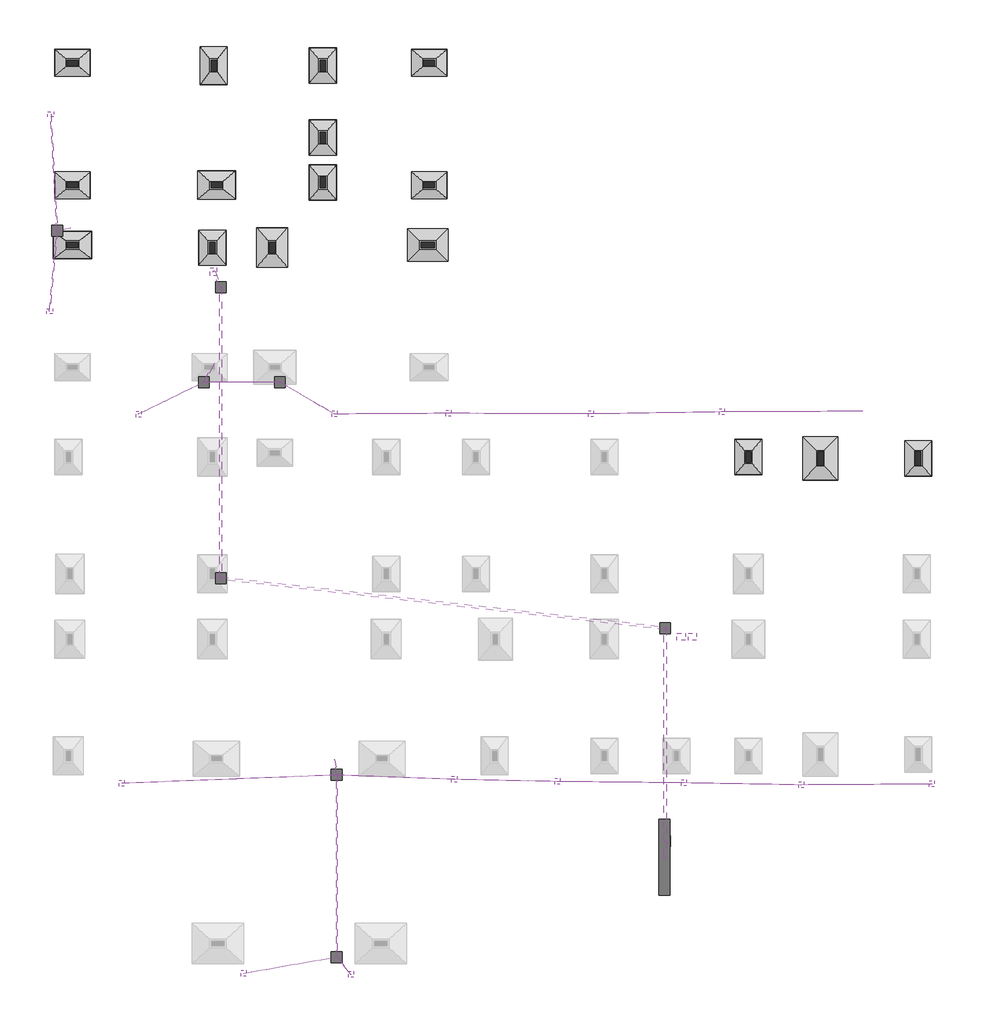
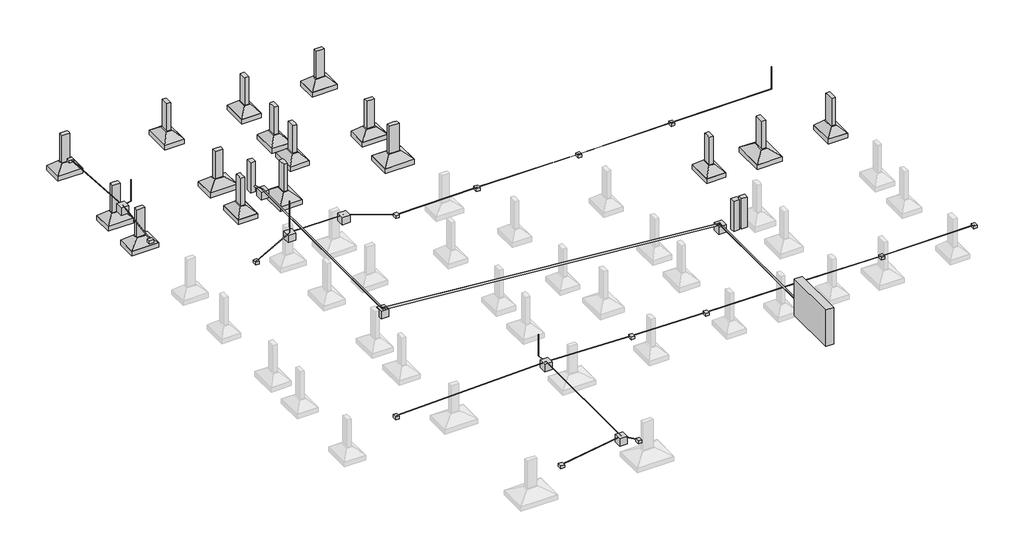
# One storey, part 2 of 2: 26 cable carrier segments, 16 columns, 16 fasteners, 15 light fixtures, 13 proxies.
"""IFC4 building model written with IfcOpenShell, lengths in millimetres."""

from ifc_helpers import new_model, si_unit, origin, place, context, project, spatial, faceted_brep, transform, mapped, element, save
from components import cx1_cx14_a8aa527d, cx2_cx15_7de8fd89, cx3_cx16_01211123, cx4_cx17_f6a05cdf, cx5_cx18_85062926, cx6_cx19_24c6d47e, cx7_cx20_4f0da077, cx8_cx21_344c0f7f, cx9_cx22_9410ceb6, qd4_qd1_2ae0cfc6, qd5_qd2_821c3556, qd6_qd3_51647582, qm2_qm1_dc551427, el168_el337_d79b4257, el169_el338_a9e14a57, el170_el339_c05dac83, el182_el340_44536469, el193_el356_b3d39168, el194_el357_835912d5, el195_el358_41d8a6ff, el196_el359_8e960314, el203_el366_464613bc, el204_el367_4f62fd23, el205_el368_c1dd48bb, el213_el376_55cabb44, el214_el377_bcd5c488, el215_el378_3e00d2e9, el216_el379_91f23930, el224_el380_baf899b6, el225_el382_626b17a3, el226_el383_29e7ba33, el227_el384_02478b61, el228_el385_ea66cd84, el229_el386_fc9da1af, el230_el387_b7c09549, el231_el388_bb1bbab1, el236_el391_a32c4c02, el238_el392_619ccad4, el239_el393_78304476, s1_4bae340d, s10_b3591f86, s12_20553a01, s13_e8522c43, s25_540ac755, s26_9032f409, s7_8c5de983, light_fixture_efbc4ff1, light_fixture_6b981a47, light_fixture_98e1bdc1, light_fixture_e218de78, light_fixture_36c6db67, light_fixture_d0c40b61, light_fixture_7529da5c, light_fixture_7ef588a0, light_fixture_9450ebba, light_fixture_d1f52d2e, light_fixture_ca70e894, light_fixture_18111d35, light_fixture_9afcb20e, light_fixture_d6bf5405, light_fixture_48a183f7

model = new_model("IFC4")

# Units and contexts
model_context = context("Model", 3, world=origin())
ifc_project = project(units=[si_unit("LENGTHUNIT", "METRE", prefix="MILLI")], contexts=[model_context])

# Site, building, storey
site = spatial("IfcSite", under=ifc_project)
building = spatial("IfcBuilding", under=site)
storey = spatial("IfcBuildingStorey", under=building, Name="FUNDAÇÃO", Elevation=0.0)

# Proxies
placement = place(None, origin())
cx1_cx14_shape = cx1_cx14_a8aa527d(model_context)
element("IfcBuildingElementProxy", 1, Name="CX1 : CX14", ObjectType="CX1 : CX14", at=placement, inside=storey, context=model_context, shape_type="MappedRepresentation", body=[
    mapped(cx1_cx14_shape, transform((0.0, 0.0, 0.0), x_axis=(1.0, 0.0, 0.0), y_axis=(0.0, 1.0, 0.0), z_axis=(0.0, 0.0, 1.0))),
])
cx2_cx15_shape = cx2_cx15_7de8fd89(model_context)
element("IfcBuildingElementProxy", 2, Name="CX2 : CX15", ObjectType="CX2 : CX15", at=placement, inside=storey, context=model_context, shape_type="MappedRepresentation", body=[
    mapped(cx2_cx15_shape, transform((0.0, 0.0, 0.0), x_axis=(1.0, 0.0, 0.0), y_axis=(0.0, 1.0, 0.0), z_axis=(0.0, 0.0, 1.0))),
])
cx3_cx16_shape = cx3_cx16_01211123(model_context)
element("IfcBuildingElementProxy", 3, Name="CX3 : CX16", ObjectType="CX3 : CX16", at=placement, inside=storey, context=model_context, shape_type="MappedRepresentation", body=[
    mapped(cx3_cx16_shape, transform((0.0, 0.0, 0.0), x_axis=(1.0, 0.0, 0.0), y_axis=(0.0, 1.0, 0.0), z_axis=(0.0, 0.0, 1.0))),
])
cx4_cx17_shape = cx4_cx17_f6a05cdf(model_context)
element("IfcBuildingElementProxy", 4, Name="CX4 : CX17", ObjectType="CX4 : CX17", at=placement, inside=storey, context=model_context, shape_type="MappedRepresentation", body=[
    mapped(cx4_cx17_shape, transform((0.0, 0.0, 0.0), x_axis=(1.0, 0.0, 0.0), y_axis=(0.0, 1.0, 0.0), z_axis=(0.0, 0.0, 1.0))),
])
cx5_cx18_shape = cx5_cx18_85062926(model_context)
element("IfcBuildingElementProxy", 5, Name="CX5 : CX18", ObjectType="CX5 : CX18", at=placement, inside=storey, context=model_context, shape_type="MappedRepresentation", body=[
    mapped(cx5_cx18_shape, transform((0.0, 0.0, 0.0), x_axis=(1.0, 0.0, 0.0), y_axis=(0.0, 1.0, 0.0), z_axis=(0.0, 0.0, 1.0))),
])
cx6_cx19_shape = cx6_cx19_24c6d47e(model_context)
element("IfcBuildingElementProxy", 6, Name="CX6 : CX19", ObjectType="CX6 : CX19", at=placement, inside=storey, context=model_context, shape_type="MappedRepresentation", body=[
    mapped(cx6_cx19_shape, transform((0.0, 0.0, 0.0), x_axis=(1.0, 0.0, 0.0), y_axis=(0.0, 1.0, 0.0), z_axis=(0.0, 0.0, 1.0))),
])
cx7_cx20_shape = cx7_cx20_4f0da077(model_context)
element("IfcBuildingElementProxy", 7, Name="CX7 : CX20", ObjectType="CX7 : CX20", at=placement, inside=storey, context=model_context, shape_type="MappedRepresentation", body=[
    mapped(cx7_cx20_shape, transform((0.0, 0.0, 0.0), x_axis=(1.0, 0.0, 0.0), y_axis=(0.0, 1.0, 0.0), z_axis=(0.0, 0.0, 1.0))),
])
cx8_cx21_shape = cx8_cx21_344c0f7f(model_context)
element("IfcBuildingElementProxy", 8, Name="CX8 : CX21", ObjectType="CX8 : CX21", at=placement, inside=storey, context=model_context, shape_type="MappedRepresentation", body=[
    mapped(cx8_cx21_shape, transform((0.0, 0.0, 0.0), x_axis=(1.0, 0.0, 0.0), y_axis=(0.0, 1.0, 0.0), z_axis=(0.0, 0.0, 1.0))),
])
cx9_cx22_shape = cx9_cx22_9410ceb6(model_context)
element("IfcBuildingElementProxy", 9, Name="CX9 : CX22", ObjectType="CX9 : CX22", at=placement, inside=storey, context=model_context, shape_type="MappedRepresentation", body=[
    mapped(cx9_cx22_shape, transform((0.0, 0.0, 0.0), x_axis=(1.0, 0.0, 0.0), y_axis=(0.0, 1.0, 0.0), z_axis=(0.0, 0.0, 1.0))),
])
qd4_qd1_shape = qd4_qd1_2ae0cfc6(model_context)
element("IfcBuildingElementProxy", 10, Name="QD4 : QD1", ObjectType="QD4 : QD1", at=placement, inside=storey, context=model_context, shape_type="MappedRepresentation", body=[
    mapped(qd4_qd1_shape, transform((0.0, 0.0, 0.0), x_axis=(1.0, 0.0, 0.0), y_axis=(0.0, 1.0, 0.0), z_axis=(0.0, 0.0, 1.0))),
])
qd5_qd2_shape = qd5_qd2_821c3556(model_context)
element("IfcBuildingElementProxy", 11, Name="QD5 : QD2", ObjectType="QD5 : QD2", at=placement, inside=storey, context=model_context, shape_type="MappedRepresentation", body=[
    mapped(qd5_qd2_shape, transform((0.0, 0.0, 0.0), x_axis=(1.0, 0.0, 0.0), y_axis=(0.0, 1.0, 0.0), z_axis=(0.0, 0.0, 1.0))),
])
qd6_qd3_shape = qd6_qd3_51647582(model_context)
element("IfcBuildingElementProxy", 12, Name="QD6 : QD3", ObjectType="QD6 : QD3", at=placement, inside=storey, context=model_context, shape_type="MappedRepresentation", body=[
    mapped(qd6_qd3_shape, transform((0.0, 0.0, 0.0), x_axis=(1.0, 0.0, 0.0), y_axis=(0.0, 1.0, 0.0), z_axis=(0.0, 0.0, 1.0))),
])
qm2_qm1_shape = qm2_qm1_dc551427(model_context)
element("IfcBuildingElementProxy", 13, Name="QM2 : QM1", ObjectType="QM2 : QM1", at=placement, inside=storey, context=model_context, shape_type="MappedRepresentation", body=[
    mapped(qm2_qm1_shape, transform((0.0, 0.0, 0.0), x_axis=(1.0, 0.0, 0.0), y_axis=(0.0, 1.0, 0.0), z_axis=(0.0, 0.0, 1.0))),
])

# Cable carrier segments
el168_el337_shape = el168_el337_d79b4257(model_context)
element("IfcCableCarrierSegment", 14, ObjectType="El168 : El337", at=placement, inside=storey, context=model_context, shape_type="MappedRepresentation", body=[
    mapped(el168_el337_shape, transform((0.0, 0.0, 0.0), x_axis=(1.0, 0.0, 0.0), y_axis=(0.0, 1.0, 0.0), z_axis=(0.0, 0.0, 1.0))),
])
el169_el338_shape = el169_el338_a9e14a57(model_context)
element("IfcCableCarrierSegment", 15, ObjectType="El169 : El338", at=placement, inside=storey, context=model_context, shape_type="MappedRepresentation", body=[
    mapped(el169_el338_shape, transform((0.0, 0.0, 0.0), x_axis=(1.0, 0.0, 0.0), y_axis=(0.0, 1.0, 0.0), z_axis=(0.0, 0.0, 1.0))),
])
el170_el339_shape = el170_el339_c05dac83(model_context)
element("IfcCableCarrierSegment", 16, ObjectType="El170 : El339", at=placement, inside=storey, context=model_context, shape_type="MappedRepresentation", body=[
    mapped(el170_el339_shape, transform((0.0, 0.0, 0.0), x_axis=(1.0, 0.0, 0.0), y_axis=(0.0, 1.0, 0.0), z_axis=(0.0, 0.0, 1.0))),
])
el182_el340_shape = el182_el340_44536469(model_context)
element("IfcCableCarrierSegment", 17, ObjectType="El182 : El340", at=placement, inside=storey, context=model_context, shape_type="MappedRepresentation", body=[
    mapped(el182_el340_shape, transform((0.0, 0.0, 0.0), x_axis=(1.0, 0.0, 0.0), y_axis=(0.0, 1.0, 0.0), z_axis=(0.0, 0.0, 1.0))),
])
el193_el356_shape = el193_el356_b3d39168(model_context)
element("IfcCableCarrierSegment", 18, ObjectType="El193 : El356", at=placement, inside=storey, context=model_context, shape_type="MappedRepresentation", body=[
    mapped(el193_el356_shape, transform((0.0, 0.0, 0.0), x_axis=(1.0, 0.0, 0.0), y_axis=(0.0, 1.0, 0.0), z_axis=(0.0, 0.0, 1.0))),
])
el194_el357_shape = el194_el357_835912d5(model_context)
element("IfcCableCarrierSegment", 19, ObjectType="El194 : El357", at=placement, inside=storey, context=model_context, shape_type="MappedRepresentation", body=[
    mapped(el194_el357_shape, transform((0.0, 0.0, 0.0), x_axis=(1.0, 0.0, 0.0), y_axis=(0.0, 1.0, 0.0), z_axis=(0.0, 0.0, 1.0))),
])
el195_el358_shape = el195_el358_41d8a6ff(model_context)
element("IfcCableCarrierSegment", 20, ObjectType="El195 : El358", at=placement, inside=storey, context=model_context, shape_type="MappedRepresentation", body=[
    mapped(el195_el358_shape, transform((0.0, 0.0, 0.0), x_axis=(1.0, 0.0, 0.0), y_axis=(0.0, 1.0, 0.0), z_axis=(0.0, 0.0, 1.0))),
])
el196_el359_shape = el196_el359_8e960314(model_context)
element("IfcCableCarrierSegment", 21, ObjectType="El196 : El359", at=placement, inside=storey, context=model_context, shape_type="MappedRepresentation", body=[
    mapped(el196_el359_shape, transform((0.0, 0.0, 0.0), x_axis=(1.0, 0.0, 0.0), y_axis=(0.0, 1.0, 0.0), z_axis=(0.0, 0.0, 1.0))),
])
el203_el366_shape = el203_el366_464613bc(model_context)
element("IfcCableCarrierSegment", 22, ObjectType="El203 : El366", at=placement, inside=storey, context=model_context, shape_type="MappedRepresentation", body=[
    mapped(el203_el366_shape, transform((0.0, 0.0, 0.0), x_axis=(1.0, 0.0, 0.0), y_axis=(0.0, 1.0, 0.0), z_axis=(0.0, 0.0, 1.0))),
])
el204_el367_shape = el204_el367_4f62fd23(model_context)
element("IfcCableCarrierSegment", 23, ObjectType="El204 : El367", at=placement, inside=storey, context=model_context, shape_type="MappedRepresentation", body=[
    mapped(el204_el367_shape, transform((0.0, 0.0, 0.0), x_axis=(1.0, 0.0, 0.0), y_axis=(0.0, 1.0, 0.0), z_axis=(0.0, 0.0, 1.0))),
])
el205_el368_shape = el205_el368_c1dd48bb(model_context)
element("IfcCableCarrierSegment", 24, ObjectType="El205 : El368", at=placement, inside=storey, context=model_context, shape_type="MappedRepresentation", body=[
    mapped(el205_el368_shape, transform((0.0, 0.0, 0.0), x_axis=(1.0, 0.0, 0.0), y_axis=(0.0, 1.0, 0.0), z_axis=(0.0, 0.0, 1.0))),
])
el213_el376_shape = el213_el376_55cabb44(model_context)
element("IfcCableCarrierSegment", 25, ObjectType="El213 : El376", at=placement, inside=storey, context=model_context, shape_type="MappedRepresentation", body=[
    mapped(el213_el376_shape, transform((0.0, 0.0, 0.0), x_axis=(1.0, 0.0, 0.0), y_axis=(0.0, 1.0, 0.0), z_axis=(0.0, 0.0, 1.0))),
])
el214_el377_shape = el214_el377_bcd5c488(model_context)
element("IfcCableCarrierSegment", 26, ObjectType="El214 : El377", at=placement, inside=storey, context=model_context, shape_type="MappedRepresentation", body=[
    mapped(el214_el377_shape, transform((0.0, 0.0, 0.0), x_axis=(1.0, 0.0, 0.0), y_axis=(0.0, 1.0, 0.0), z_axis=(0.0, 0.0, 1.0))),
])
el215_el378_shape = el215_el378_3e00d2e9(model_context)
element("IfcCableCarrierSegment", 27, ObjectType="El215 : El378", at=placement, inside=storey, context=model_context, shape_type="MappedRepresentation", body=[
    mapped(el215_el378_shape, transform((0.0, 0.0, 0.0), x_axis=(1.0, 0.0, 0.0), y_axis=(0.0, 1.0, 0.0), z_axis=(0.0, 0.0, 1.0))),
])
el216_el379_shape = el216_el379_91f23930(model_context)
element("IfcCableCarrierSegment", 28, ObjectType="El216 : El379", at=placement, inside=storey, context=model_context, shape_type="MappedRepresentation", body=[
    mapped(el216_el379_shape, transform((0.0, 0.0, 0.0), x_axis=(1.0, 0.0, 0.0), y_axis=(0.0, 1.0, 0.0), z_axis=(0.0, 0.0, 1.0))),
])
el224_el380_shape = el224_el380_baf899b6(model_context)
element("IfcCableCarrierSegment", 29, ObjectType="El224 : El380", at=placement, inside=storey, context=model_context, shape_type="MappedRepresentation", body=[
    mapped(el224_el380_shape, transform((0.0, 0.0, 0.0), x_axis=(1.0, 0.0, 0.0), y_axis=(0.0, 1.0, 0.0), z_axis=(0.0, 0.0, 1.0))),
])
el225_el382_shape = el225_el382_626b17a3(model_context)
element("IfcCableCarrierSegment", 30, ObjectType="El225 : El382", at=placement, inside=storey, context=model_context, shape_type="MappedRepresentation", body=[
    mapped(el225_el382_shape, transform((0.0, 0.0, 0.0), x_axis=(1.0, 0.0, 0.0), y_axis=(0.0, 1.0, 0.0), z_axis=(0.0, 0.0, 1.0))),
])
el226_el383_shape = el226_el383_29e7ba33(model_context)
element("IfcCableCarrierSegment", 31, ObjectType="El226 : El383", at=placement, inside=storey, context=model_context, shape_type="MappedRepresentation", body=[
    mapped(el226_el383_shape, transform((0.0, 0.0, 0.0), x_axis=(1.0, 0.0, 0.0), y_axis=(0.0, 1.0, 0.0), z_axis=(0.0, 0.0, 1.0))),
])
el227_el384_shape = el227_el384_02478b61(model_context)
element("IfcCableCarrierSegment", 32, ObjectType="El227 : El384", at=placement, inside=storey, context=model_context, shape_type="MappedRepresentation", body=[
    mapped(el227_el384_shape, transform((0.0, 0.0, 0.0), x_axis=(1.0, 0.0, 0.0), y_axis=(0.0, 1.0, 0.0), z_axis=(0.0, 0.0, 1.0))),
])
el228_el385_shape = el228_el385_ea66cd84(model_context)
element("IfcCableCarrierSegment", 33, ObjectType="El228 : El385", at=placement, inside=storey, context=model_context, shape_type="MappedRepresentation", body=[
    mapped(el228_el385_shape, transform((0.0, 0.0, 0.0), x_axis=(1.0, 0.0, 0.0), y_axis=(0.0, 1.0, 0.0), z_axis=(0.0, 0.0, 1.0))),
])
el229_el386_shape = el229_el386_fc9da1af(model_context)
element("IfcCableCarrierSegment", 34, ObjectType="El229 : El386", at=placement, inside=storey, context=model_context, shape_type="MappedRepresentation", body=[
    mapped(el229_el386_shape, transform((0.0, 0.0, 0.0), x_axis=(1.0, 0.0, 0.0), y_axis=(0.0, 1.0, 0.0), z_axis=(0.0, 0.0, 1.0))),
])
el230_el387_shape = el230_el387_b7c09549(model_context)
element("IfcCableCarrierSegment", 35, ObjectType="El230 : El387", at=placement, inside=storey, context=model_context, shape_type="MappedRepresentation", body=[
    mapped(el230_el387_shape, transform((0.0, 0.0, 0.0), x_axis=(1.0, 0.0, 0.0), y_axis=(0.0, 1.0, 0.0), z_axis=(0.0, 0.0, 1.0))),
])
el231_el388_shape = el231_el388_bb1bbab1(model_context)
element("IfcCableCarrierSegment", 36, ObjectType="El231 : El388", at=placement, inside=storey, context=model_context, shape_type="MappedRepresentation", body=[
    mapped(el231_el388_shape, transform((0.0, 0.0, 0.0), x_axis=(1.0, 0.0, 0.0), y_axis=(0.0, 1.0, 0.0), z_axis=(0.0, 0.0, 1.0))),
])
el236_el391_shape = el236_el391_a32c4c02(model_context)
element("IfcCableCarrierSegment", 37, ObjectType="El236 : El391", at=placement, inside=storey, context=model_context, shape_type="MappedRepresentation", body=[
    mapped(el236_el391_shape, transform((0.0, 0.0, 0.0), x_axis=(1.0, 0.0, 0.0), y_axis=(0.0, 1.0, 0.0), z_axis=(0.0, 0.0, 1.0))),
])
el238_el392_shape = el238_el392_619ccad4(model_context)
element("IfcCableCarrierSegment", 38, ObjectType="El238 : El392", at=placement, inside=storey, context=model_context, shape_type="MappedRepresentation", body=[
    mapped(el238_el392_shape, transform((0.0, 0.0, 0.0), x_axis=(1.0, 0.0, 0.0), y_axis=(0.0, 1.0, 0.0), z_axis=(0.0, 0.0, 1.0))),
])
el239_el393_shape = el239_el393_78304476(model_context)
element("IfcCableCarrierSegment", 39, ObjectType="El239 : El393", at=placement, inside=storey, context=model_context, shape_type="MappedRepresentation", body=[
    mapped(el239_el393_shape, transform((0.0, 0.0, 0.0), x_axis=(1.0, 0.0, 0.0), y_axis=(0.0, 1.0, 0.0), z_axis=(0.0, 0.0, 1.0))),
])

# Columns
element("IfcColumn", 40, ObjectType="TQS - Pilar retangular : 20,0x40,0", at=placement, inside=storey, context=model_context, shape_type="Brep", body=[
    faceted_brep([(25180.0, 11400.0, 0.0), (25180.0, 11000.0, 0.0), (24980.0, 11000.0, 0.0), (24980.0, 11400.0, 0.0), (25180.0, 11400.0, 1500.0), (25180.0, 11250.0, 1500.0), (25180.0, 11000.0, 1500.0), (25180.0, 11000.0, 1000.0), (25180.0, 11400.0, 900.0), (25030.0, 11000.0, 1500.0), (24980.0, 11000.0, 1500.0), (24980.0, 11250.0, 1500.0), (24980.0, 11400.0, 1500.0), (24980.0, 11400.0, 900.0)], [[[0, 1, 2, 3]], [[4, 5, 6, 7, 1, 0, 8]], [[6, 9, 10, 2, 1, 7]], [[10, 11, 12, 13, 3, 2]], [[12, 4, 8, 0, 3, 13]], [[4, 12, 11, 10, 9, 6, 5]]]),
])
element("IfcColumn", 41, ObjectType="TQS - Pilar retangular : 20,0x40,0", at=placement, inside=storey, context=model_context, shape_type="Brep", body=[
    faceted_brep([(400.0, 18900.0, 0.0), (0.0, 18900.0, 0.0), (0.0, 19100.0, 0.0), (400.0, 19100.0, 0.0), (400.0, 18900.0, 1500.0), (150.0, 18900.0, 1500.0), (0.0, 18900.0, 1500.0), (0.0, 18900.0, 1000.0), (0.0, 19100.0, 1500.0), (0.0, 19100.0, 1000.0), (150.0, 19100.0, 1500.0), (400.0, 19100.0, 1500.0), (400.0, 19100.0, 1000.0), (400.0, 18950.0, 1500.0)], [[[0, 1, 2, 3]], [[4, 5, 6, 7, 1, 0]], [[6, 8, 9, 2, 1, 7]], [[8, 10, 11, 12, 3, 2, 9]], [[11, 13, 4, 0, 3, 12]], [[4, 13, 11, 10, 8, 6, 5]]]),
])
element("IfcColumn", 42, ObjectType="TQS - Pilar retangular : 20,0x40,0", at=placement, inside=storey, context=model_context, shape_type="Brep", body=[
    faceted_brep([(5450.0, 19100.0, 0.0), (5450.0, 18700.0, 0.0), (5250.0, 18700.0, 0.0), (5250.0, 19100.0, 0.0), (5450.0, 19100.0, 1500.0), (5450.0, 18950.0, 1500.0), (5450.0, 18700.0, 1500.0), (5450.0, 18700.0, 1000.0), (5450.0, 19100.0, 1000.0), (5300.0, 18700.0, 1500.0), (5250.0, 18700.0, 1500.0), (5250.0, 18950.0, 1500.0), (5250.0, 19100.0, 1500.0), (5250.0, 19100.0, 1000.0)], [[[0, 1, 2, 3]], [[4, 5, 6, 7, 1, 0, 8]], [[6, 9, 10, 2, 1, 7]], [[10, 11, 12, 13, 3, 2]], [[12, 4, 8, 0, 3, 13]], [[4, 12, 11, 10, 9, 6, 5]]]),
])
element("IfcColumn", 43, ObjectType="TQS - Pilar retangular : 20,0x40,0", at=placement, inside=storey, context=model_context, shape_type="Brep", body=[
    faceted_brep([(7650.0, 19100.0, 0.0), (7650.0, 18700.0, 0.0), (7450.0, 18700.0, 0.0), (7450.0, 19100.0, 0.0), (7650.0, 19100.0, 1500.0), (7650.0, 18950.0, 1500.0), (7650.0, 18700.0, 1500.0), (7650.0, 19100.0, 1000.0), (7600.0, 18700.0, 1500.0), (7450.0, 18700.0, 1500.0), (7450.0, 18700.0, 1000.0), (7450.0, 18950.0, 1500.0), (7450.0, 19100.0, 1500.0), (7450.0, 19100.0, 1000.0)], [[[0, 1, 2, 3]], [[4, 5, 6, 1, 0, 7]], [[6, 8, 9, 10, 2, 1]], [[9, 11, 12, 13, 3, 2, 10]], [[12, 4, 7, 0, 3, 13]], [[4, 12, 11, 9, 8, 6, 5]]]),
])
element("IfcColumn", 44, ObjectType="TQS - Pilar retangular : 20,0x40,0", at=placement, inside=storey, context=model_context, shape_type="Brep", body=[
    faceted_brep([(400.0, 21100.0, 0.0), (0.0, 21100.0, 0.0), (0.0, 21300.0, 0.0), (400.0, 21300.0, 0.0), (400.0, 21100.0, 1500.0), (150.0, 21100.0, 1500.0), (0.0, 21100.0, 1500.0), (0.0, 21100.0, 1000.0), (400.0, 21100.0, 1000.0), (0.0, 21300.0, 1500.0), (0.0, 21300.0, 1000.0), (150.0, 21300.0, 1500.0), (400.0, 21300.0, 1500.0), (400.0, 21250.0, 1500.0)], [[[0, 1, 2, 3]], [[4, 5, 6, 7, 1, 0, 8]], [[6, 9, 10, 2, 1, 7]], [[9, 11, 12, 3, 2, 10]], [[12, 13, 4, 8, 0, 3]], [[4, 13, 12, 11, 9, 6, 5]]]),
])
element("IfcColumn", 45, ObjectType="TQS - Pilar retangular : 20,0x40,0", at=placement, inside=storey, context=model_context, shape_type="Brep", body=[
    faceted_brep([(5700.0, 21100.0, 0.0), (5300.0, 21100.0, 0.0), (5300.0, 21300.0, 0.0), (5700.0, 21300.0, 0.0), (5700.0, 21100.0, 1500.0), (5300.0, 21100.0, 1500.0), (5300.0, 21100.0, 1000.0), (5700.0, 21100.0, 1000.0), (5300.0, 21250.0, 1500.0), (5300.0, 21300.0, 1500.0), (5300.0, 21300.0, 1000.0), (5450.0, 21300.0, 1500.0), (5700.0, 21300.0, 1500.0), (5700.0, 21250.0, 1500.0)], [[[0, 1, 2, 3]], [[4, 5, 6, 1, 0, 7]], [[5, 8, 9, 10, 2, 1, 6]], [[9, 11, 12, 3, 2, 10]], [[12, 13, 4, 7, 0, 3]], [[4, 13, 12, 11, 9, 8, 5]]]),
])
element("IfcColumn", 46, ObjectType="TQS - Pilar retangular : 20,0x40,0", at=placement, inside=storey, context=model_context, shape_type="Brep", body=[
    faceted_brep([(13530.0, 21100.0, 0.0), (13130.0, 21100.0, 0.0), (13130.0, 21300.0, 0.0), (13530.0, 21300.0, 0.0), (13530.0, 21100.0, 1500.0), (13380.0, 21100.0, 1500.0), (13130.0, 21100.0, 1500.0), (13130.0, 21100.0, 1000.0), (13530.0, 21100.0, 1000.0), (13130.0, 21250.0, 1500.0), (13130.0, 21300.0, 1500.0), (13380.0, 21300.0, 1500.0), (13530.0, 21300.0, 1500.0), (13530.0, 21300.0, 1000.0)], [[[0, 1, 2, 3]], [[4, 5, 6, 7, 1, 0, 8]], [[6, 9, 10, 2, 1, 7]], [[10, 11, 12, 13, 3, 2]], [[12, 4, 8, 0, 3, 13]], [[4, 12, 11, 10, 9, 6, 5]]]),
])
element("IfcColumn", 47, ObjectType="TQS - Pilar retangular : 20,0x40,0", at=placement, inside=storey, context=model_context, shape_type="Brep", body=[
    faceted_brep([(9315.0, 21100.0, 0.0), (9315.0, 21500.0, 0.0), (9515.0, 21500.0, 0.0), (9515.0, 21100.0, 0.0), (9315.0, 21100.0, 1500.0), (9315.0, 21250.0, 1500.0), (9315.0, 21500.0, 1500.0), (9315.0, 21100.0, 1000.0), (9340.0, 21500.0, 1500.0), (9490.0, 21500.0, 1500.0), (9515.0, 21500.0, 1500.0), (9515.0, 21250.0, 1500.0), (9515.0, 21100.0, 1500.0), (9515.0, 21100.0, 1000.0)], [[[0, 1, 2, 3]], [[4, 5, 6, 1, 0, 7]], [[6, 8, 9, 10, 2, 1]], [[10, 11, 12, 13, 3, 2]], [[12, 4, 7, 0, 3, 13]], [[4, 12, 11, 10, 9, 8, 6, 5]]]),
])
element("IfcColumn", 48, ObjectType="TQS - Pilar retangular : 20,0x40,0", at=placement, inside=storey, context=model_context, shape_type="Brep", body=[
    faceted_brep([(5300.0, 25400.0, 0.0), (5300.0, 25800.0, 0.0), (5500.0, 25800.0, 0.0), (5500.0, 25400.0, 0.0), (5300.0, 25400.0, 1500.0), (5300.0, 25650.0, 1500.0), (5300.0, 25800.0, 1500.0), (5300.0, 25800.0, 1000.0), (5300.0, 25400.0, 1000.0), (5500.0, 25800.0, 1500.0), (5500.0, 25800.0, 1000.0), (5500.0, 25650.0, 1500.0), (5500.0, 25400.0, 1500.0), (5450.0, 25400.0, 1500.0)], [[[0, 1, 2, 3]], [[4, 5, 6, 7, 1, 0, 8]], [[6, 9, 10, 2, 1, 7]], [[9, 11, 12, 3, 2, 10]], [[12, 13, 4, 8, 0, 3]], [[4, 13, 12, 11, 9, 6, 5]]]),
])
element("IfcColumn", 49, ObjectType="TQS - Pilar retangular : 20,0x40,0", at=placement, inside=storey, context=model_context, shape_type="Brep", body=[
    faceted_brep([(13130.0, 25800.0, 0.0), (13530.0, 25800.0, 0.0), (13530.0, 25600.0, 0.0), (13130.0, 25600.0, 0.0), (13130.0, 25800.0, 1500.0), (13530.0, 25800.0, 1500.0), (13130.0, 25800.0, 1000.0), (13530.0, 25600.0, 1500.0), (13530.0, 25600.0, 1000.0), (13380.0, 25600.0, 1500.0), (13130.0, 25600.0, 1500.0), (13130.0, 25650.0, 1500.0)], [[[0, 1, 2, 3]], [[4, 5, 1, 0, 6]], [[5, 7, 8, 2, 1]], [[7, 9, 10, 3, 2, 8]], [[10, 11, 4, 6, 0, 3]], [[4, 11, 10, 9, 7, 5]]]),
])
element("IfcColumn", 50, ObjectType="TQS - Pilar retangular : 20,0x40,0", at=placement, inside=storey, context=model_context, shape_type="Brep", body=[
    faceted_brep([(9315.0, 25400.0, 0.0), (9315.0, 25800.0, 0.0), (9515.0, 25800.0, 0.0), (9515.0, 25400.0, 0.0), (9315.0, 25400.0, 1500.0), (9315.0, 25650.0, 1500.0), (9315.0, 25800.0, 1500.0), (9315.0, 25800.0, 1000.0), (9515.0, 25800.0, 1500.0), (9515.0, 25800.0, 1000.0), (9515.0, 25650.0, 1500.0), (9515.0, 25400.0, 1500.0), (9490.0, 25400.0, 1500.0), (9340.0, 25400.0, 1500.0)], [[[0, 1, 2, 3]], [[4, 5, 6, 7, 1, 0]], [[6, 8, 9, 2, 1, 7]], [[8, 10, 11, 3, 2, 9]], [[11, 12, 13, 4, 0, 3]], [[4, 13, 12, 11, 10, 8, 6, 5]]]),
])
element("IfcColumn", 51, ObjectType="TQS - Pilar retangular : 20,0x40,0", at=placement, inside=storey, context=model_context, shape_type="Brep", body=[
    faceted_brep([(9315.0, 22750.0, 0.0), (9315.0, 23150.0, 0.0), (9515.0, 23150.0, 0.0), (9515.0, 22750.0, 0.0), (9315.0, 22750.0, 1500.0), (9315.0, 22900.0, 1500.0), (9315.0, 23150.0, 1500.0), (9315.0, 22750.0, 1000.0), (9340.0, 23150.0, 1500.0), (9490.0, 23150.0, 1500.0), (9515.0, 23150.0, 1500.0), (9515.0, 22900.0, 1500.0), (9515.0, 22750.0, 1500.0), (9515.0, 22750.0, 1000.0), (9490.0, 22750.0, 1500.0), (9340.0, 22750.0, 1500.0)], [[[0, 1, 2, 3]], [[4, 5, 6, 1, 0, 7]], [[6, 8, 9, 10, 2, 1]], [[10, 11, 12, 13, 3, 2]], [[12, 14, 15, 4, 7, 0, 3, 13]], [[4, 15, 14, 12, 11, 10, 9, 8, 6, 5]]]),
])
element("IfcColumn", 52, ObjectType="TQS - Pilar retangular : 20,0x40,0", at=placement, inside=storey, context=model_context, shape_type="Brep", body=[
    faceted_brep([(0.0, 25800.0, 0.0), (400.0, 25800.0, 0.0), (400.0, 25600.0, 0.0), (0.0, 25600.0, 0.0), (0.0, 25800.0, 1500.0), (400.0, 25800.0, 1500.0), (400.0, 25800.0, 1000.0), (400.0, 25650.0, 1500.0), (400.0, 25600.0, 1500.0), (150.0, 25600.0, 1500.0), (0.0, 25600.0, 1500.0), (0.0, 25600.0, 1000.0)], [[[0, 1, 2, 3]], [[4, 5, 6, 1, 0]], [[5, 7, 8, 2, 1, 6]], [[8, 9, 10, 11, 3, 2]], [[10, 4, 0, 3, 11]], [[4, 10, 9, 8, 7, 5]]]),
])
element("IfcColumn", 53, ObjectType="TQS - Pilar retangular : 20,0x50,0", at=placement, inside=storey, context=model_context, shape_type="Brep", body=[
    faceted_brep([(31430.0, 11400.0, 0.0), (31430.0, 10900.0, 0.0), (31230.0, 10900.0, 0.0), (31230.0, 11400.0, 0.0), (31430.0, 11400.0, 1500.0), (31430.0, 10900.0, 1500.0), (31380.0, 10900.0, 1500.0), (31230.0, 10900.0, 1500.0), (31230.0, 10900.0, 1000.0), (31230.0, 11250.0, 1500.0), (31230.0, 11400.0, 1500.0), (31230.0, 11400.0, 900.0)], [[[0, 1, 2, 3]], [[4, 5, 1, 0]], [[5, 6, 7, 8, 2, 1]], [[7, 9, 10, 11, 3, 2, 8]], [[10, 4, 0, 3, 11]], [[4, 10, 9, 7, 6, 5]]]),
])
element("IfcColumn", 54, ObjectType="TQS - Pilar retangular : 20,0x50,0", at=placement, inside=storey, context=model_context, shape_type="Brep", body=[
    faceted_brep([(27830.0, 11400.0, 0.0), (27830.0, 10900.0, 0.0), (27630.0, 10900.0, 0.0), (27630.0, 11400.0, 0.0), (27830.0, 11400.0, 1500.0), (27830.0, 11250.0, 1500.0), (27830.0, 10900.0, 1500.0), (27830.0, 10900.0, 900.0), (27830.0, 11400.0, 900.0), (27680.0, 10900.0, 1500.0), (27630.0, 10900.0, 1500.0), (27630.0, 11250.0, 1500.0), (27630.0, 11400.0, 1500.0), (27630.0, 11400.0, 900.0)], [[[0, 1, 2, 3]], [[4, 5, 6, 7, 1, 0, 8]], [[6, 9, 10, 2, 1, 7]], [[10, 11, 12, 13, 3, 2]], [[12, 4, 8, 0, 3, 13]], [[4, 12, 11, 10, 9, 6, 5]]]),
])
element("IfcColumn", 55, ObjectType="TQS - Pilar retangular : 20,0x50,0", at=placement, inside=storey, context=model_context, shape_type="Brep", body=[
    faceted_brep([(13530.0, 18900.0, 0.0), (13030.0, 18900.0, 0.0), (13030.0, 19100.0, 0.0), (13530.0, 19100.0, 0.0), (13530.0, 18900.0, 1500.0), (13380.0, 18900.0, 1500.0), (13030.0, 18900.0, 1500.0), (13530.0, 18900.0, 1000.0), (13030.0, 18950.0, 1500.0), (13030.0, 19100.0, 1500.0), (13030.0, 19100.0, 1000.0), (13380.0, 19100.0, 1500.0), (13530.0, 19100.0, 1500.0), (13530.0, 19100.0, 1000.0)], [[[0, 1, 2, 3]], [[4, 5, 6, 1, 0, 7]], [[6, 8, 9, 10, 2, 1]], [[9, 11, 12, 13, 3, 2, 10]], [[12, 4, 7, 0, 3, 13]], [[4, 12, 11, 9, 8, 6, 5]]]),
])

# Fasteners
s1_shape = s1_4bae340d(model_context)
element("IfcFastener", 56, ObjectType="TQS - Sapata : S1", at=placement, inside=storey, context=model_context, shape_type="MappedRepresentation", body=[
    mapped(s1_shape, transform((0.0, 25900.0, 0.0), x_axis=(0.0, 1.0, 0.0), y_axis=(-1.0, 0.0, 0.0), z_axis=(0.0, 0.0, 1.0))),
])
s10_shape = s10_b3591f86(model_context)
element("IfcFastener", 57, ObjectType="TQS - Sapata : S10", at=placement, inside=storey, context=model_context, shape_type="MappedRepresentation", body=[
    mapped(s10_shape, transform((400.0, 18800.0, 0.0), x_axis=(0.0, -1.0, 0.0), y_axis=(1.0, 0.0, 0.0), z_axis=(0.0, 0.0, 1.0))),
])
element("IfcFastener", 58, ObjectType="TQS - Sapata : S11", at=placement, inside=storey, context=model_context, shape_type="MappedRepresentation", body=[
    mapped(s1_shape, transform((5550.0, 19100.0, 0.0), x_axis=(1.0, 0.0, 0.0), y_axis=(0.0, 1.0, 0.0), z_axis=(0.0, 0.0, 1.0))),
])
s12_shape = s12_20553a01(model_context)
element("IfcFastener", 59, ObjectType="TQS - Sapata : S12", at=placement, inside=storey, context=model_context, shape_type="MappedRepresentation", body=[
    mapped(s12_shape, transform((7750.0, 19100.0, 0.0), x_axis=(1.0, 0.0, 0.0), y_axis=(0.0, 1.0, 0.0), z_axis=(0.0, 0.0, 1.0))),
])
s13_shape = s13_e8522c43(model_context)
element("IfcFastener", 60, ObjectType="TQS - Sapata : S13", at=placement, inside=storey, context=model_context, shape_type="MappedRepresentation", body=[
    mapped(s13_shape, transform((13480.0, 18800.0, 0.0), x_axis=(0.0, -1.0, 0.0), y_axis=(1.0, 0.0, 0.0), z_axis=(0.0, 0.0, 1.0))),
])
element("IfcFastener", 61, ObjectType="TQS - Sapata : S2", at=placement, inside=storey, context=model_context, shape_type="MappedRepresentation", body=[
    mapped(s10_shape, transform((5200.0, 25400.0, 0.0), x_axis=(-1.0, 0.0, 0.0), y_axis=(0.0, -1.0, 0.0), z_axis=(0.0, 0.0, 1.0))),
])
element("IfcFastener", 62, ObjectType="TQS - Sapata : S24", at=placement, inside=storey, context=model_context, shape_type="MappedRepresentation", body=[
    mapped(s1_shape, transform((25280.0, 11400.0, 0.0), x_axis=(1.0, 0.0, 0.0), y_axis=(0.0, 1.0, 0.0), z_axis=(0.0, 0.0, 1.0))),
])
s25_shape = s25_540ac755(model_context)
element("IfcFastener", 63, ObjectType="TQS - Sapata : S25", at=placement, inside=storey, context=model_context, shape_type="MappedRepresentation", body=[
    mapped(s25_shape, transform((27930.0, 11350.0, 0.0), x_axis=(1.0, 0.0, 0.0), y_axis=(0.0, 1.0, 0.0), z_axis=(0.0, 0.0, 1.0))),
])
s26_shape = s26_9032f409(model_context)
element("IfcFastener", 64, ObjectType="TQS - Sapata : S26", at=placement, inside=storey, context=model_context, shape_type="MappedRepresentation", body=[
    mapped(s26_shape, transform((31530.0, 11350.0, 0.0), x_axis=(1.0, 0.0, 0.0), y_axis=(0.0, 1.0, 0.0), z_axis=(0.0, 0.0, 1.0))),
])
element("IfcFastener", 65, ObjectType="TQS - Sapata : S3", at=placement, inside=storey, context=model_context, shape_type="MappedRepresentation", body=[
    mapped(s1_shape, transform((9215.0, 25400.0, 0.0), x_axis=(-1.0, 0.0, 0.0), y_axis=(0.0, -1.0, 0.0), z_axis=(0.0, 0.0, 1.0))),
])
element("IfcFastener", 66, ObjectType="TQS - Sapata : S4", at=placement, inside=storey, context=model_context, shape_type="MappedRepresentation", body=[
    mapped(s1_shape, transform((13130.0, 25900.0, 0.0), x_axis=(0.0, 1.0, 0.0), y_axis=(-1.0, 0.0, 0.0), z_axis=(0.0, 0.0, 1.0))),
])
element("IfcFastener", 67, ObjectType="TQS - Sapata : S5", at=placement, inside=storey, context=model_context, shape_type="MappedRepresentation", body=[
    mapped(s1_shape, transform((9215.0, 22750.0, 0.0), x_axis=(-1.0, 0.0, 0.0), y_axis=(0.0, -1.0, 0.0), z_axis=(0.0, 0.0, 1.0))),
])
element("IfcFastener", 68, ObjectType="TQS - Sapata : S6", at=placement, inside=storey, context=model_context, shape_type="MappedRepresentation", body=[
    mapped(s1_shape, transform((400.0, 21000.0, 0.0), x_axis=(0.0, -1.0, 0.0), y_axis=(1.0, 0.0, 0.0), z_axis=(0.0, 0.0, 1.0))),
])
s7_shape = s7_8c5de983(model_context)
element("IfcFastener", 69, ObjectType="TQS - Sapata : S7", at=placement, inside=storey, context=model_context, shape_type="MappedRepresentation", body=[
    mapped(s7_shape, transform((5700.0, 21000.0, 0.0), x_axis=(0.0, -1.0, 0.0), y_axis=(1.0, 0.0, 0.0), z_axis=(0.0, 0.0, 1.0))),
])
element("IfcFastener", 70, ObjectType="TQS - Sapata : S8", at=placement, inside=storey, context=model_context, shape_type="MappedRepresentation", body=[
    mapped(s1_shape, transform((13530.0, 21000.0, 0.0), x_axis=(0.0, -1.0, 0.0), y_axis=(1.0, 0.0, 0.0), z_axis=(0.0, 0.0, 1.0))),
])
element("IfcFastener", 71, ObjectType="TQS - Sapata : S9", at=placement, inside=storey, context=model_context, shape_type="MappedRepresentation", body=[
    mapped(s1_shape, transform((9215.0, 21100.0, 0.0), x_axis=(-1.0, 0.0, 0.0), y_axis=(0.0, -1.0, 0.0), z_axis=(0.0, 0.0, 1.0))),
])

# Light fixtures
light_fixture_shape = light_fixture_efbc4ff1(model_context)
element("IfcLightFixture", 72, ObjectType=" 1 :  215254", at=placement, inside=storey, context=model_context, shape_type="MappedRepresentation", body=[
    mapped(light_fixture_shape, transform((0.0, 0.0, 0.0), x_axis=(1.0, 0.0, 0.0), y_axis=(0.0, 1.0, 0.0), z_axis=(0.0, 0.0, 1.0))),
])
light_fixture_2_shape = light_fixture_6b981a47(model_context)
element("IfcLightFixture", 73, ObjectType=" 206 :  211875", at=placement, inside=storey, context=model_context, shape_type="MappedRepresentation", body=[
    mapped(light_fixture_2_shape, transform((0.0, 0.0, 0.0), x_axis=(1.0, 0.0, 0.0), y_axis=(0.0, 1.0, 0.0), z_axis=(0.0, 0.0, 1.0))),
])
light_fixture_3_shape = light_fixture_98e1bdc1(model_context)
element("IfcLightFixture", 74, ObjectType=" 207 :  211907", at=placement, inside=storey, context=model_context, shape_type="MappedRepresentation", body=[
    mapped(light_fixture_3_shape, transform((0.0, 0.0, 0.0), x_axis=(1.0, 0.0, 0.0), y_axis=(0.0, 1.0, 0.0), z_axis=(0.0, 0.0, 1.0))),
])
light_fixture_4_shape = light_fixture_e218de78(model_context)
element("IfcLightFixture", 75, ObjectType=" 208 :  211938", at=placement, inside=storey, context=model_context, shape_type="MappedRepresentation", body=[
    mapped(light_fixture_4_shape, transform((0.0, 0.0, 0.0), x_axis=(1.0, 0.0, 0.0), y_axis=(0.0, 1.0, 0.0), z_axis=(0.0, 0.0, 1.0))),
])
light_fixture_5_shape = light_fixture_36c6db67(model_context)
element("IfcLightFixture", 76, ObjectType=" 209 :  211969", at=placement, inside=storey, context=model_context, shape_type="MappedRepresentation", body=[
    mapped(light_fixture_5_shape, transform((0.0, 0.0, 0.0), x_axis=(1.0, 0.0, 0.0), y_axis=(0.0, 1.0, 0.0), z_axis=(0.0, 0.0, 1.0))),
])
light_fixture_6_shape = light_fixture_d0c40b61(model_context)
element("IfcLightFixture", 77, ObjectType=" 210 :  212000", at=placement, inside=storey, context=model_context, shape_type="MappedRepresentation", body=[
    mapped(light_fixture_6_shape, transform((0.0, 0.0, 0.0), x_axis=(1.0, 0.0, 0.0), y_axis=(0.0, 1.0, 0.0), z_axis=(0.0, 0.0, 1.0))),
])
light_fixture_7_shape = light_fixture_7529da5c(model_context)
element("IfcLightFixture", 78, ObjectType=" 211 :  212031", at=placement, inside=storey, context=model_context, shape_type="MappedRepresentation", body=[
    mapped(light_fixture_7_shape, transform((0.0, 0.0, 0.0), x_axis=(1.0, 0.0, 0.0), y_axis=(0.0, 1.0, 0.0), z_axis=(0.0, 0.0, 1.0))),
])
light_fixture_8_shape = light_fixture_7ef588a0(model_context)
element("IfcLightFixture", 79, ObjectType=" 212 :  212062", at=placement, inside=storey, context=model_context, shape_type="MappedRepresentation", body=[
    mapped(light_fixture_8_shape, transform((0.0, 0.0, 0.0), x_axis=(1.0, 0.0, 0.0), y_axis=(0.0, 1.0, 0.0), z_axis=(0.0, 0.0, 1.0))),
])
light_fixture_9_shape = light_fixture_9450ebba(model_context)
element("IfcLightFixture", 80, ObjectType=" 213 :  212093", at=placement, inside=storey, context=model_context, shape_type="MappedRepresentation", body=[
    mapped(light_fixture_9_shape, transform((0.0, 0.0, 0.0), x_axis=(1.0, 0.0, 0.0), y_axis=(0.0, 1.0, 0.0), z_axis=(0.0, 0.0, 1.0))),
])
light_fixture_10_shape = light_fixture_d1f52d2e(model_context)
element("IfcLightFixture", 81, ObjectType=" 214 :  212124", at=placement, inside=storey, context=model_context, shape_type="MappedRepresentation", body=[
    mapped(light_fixture_10_shape, transform((0.0, 0.0, 0.0), x_axis=(1.0, 0.0, 0.0), y_axis=(0.0, 1.0, 0.0), z_axis=(0.0, 0.0, 1.0))),
])
light_fixture_11_shape = light_fixture_ca70e894(model_context)
element("IfcLightFixture", 82, ObjectType=" 215 :  212155", at=placement, inside=storey, context=model_context, shape_type="MappedRepresentation", body=[
    mapped(light_fixture_11_shape, transform((0.0, 0.0, 0.0), x_axis=(1.0, 0.0, 0.0), y_axis=(0.0, 1.0, 0.0), z_axis=(0.0, 0.0, 1.0))),
])
light_fixture_12_shape = light_fixture_18111d35(model_context)
element("IfcLightFixture", 83, ObjectType=" 216 :  212186", at=placement, inside=storey, context=model_context, shape_type="MappedRepresentation", body=[
    mapped(light_fixture_12_shape, transform((0.0, 0.0, 0.0), x_axis=(1.0, 0.0, 0.0), y_axis=(0.0, 1.0, 0.0), z_axis=(0.0, 0.0, 1.0))),
])
light_fixture_13_shape = light_fixture_9afcb20e(model_context)
element("IfcLightFixture", 84, ObjectType=" 217 :  212217", at=placement, inside=storey, context=model_context, shape_type="MappedRepresentation", body=[
    mapped(light_fixture_13_shape, transform((0.0, 0.0, 0.0), x_axis=(1.0, 0.0, 0.0), y_axis=(0.0, 1.0, 0.0), z_axis=(0.0, 0.0, 1.0))),
])
light_fixture_14_shape = light_fixture_d6bf5405(model_context)
element("IfcLightFixture", 85, ObjectType=" 219 :  212279", at=placement, inside=storey, context=model_context, shape_type="MappedRepresentation", body=[
    mapped(light_fixture_14_shape, transform((0.0, 0.0, 0.0), x_axis=(1.0, 0.0, 0.0), y_axis=(0.0, 1.0, 0.0), z_axis=(0.0, 0.0, 1.0))),
])
light_fixture_15_shape = light_fixture_48a183f7(model_context)
element("IfcLightFixture", 86, ObjectType=" 220 :  212310", at=placement, inside=storey, context=model_context, shape_type="MappedRepresentation", body=[
    mapped(light_fixture_15_shape, transform((0.0, 0.0, 0.0), x_axis=(1.0, 0.0, 0.0), y_axis=(0.0, 1.0, 0.0), z_axis=(0.0, 0.0, 1.0))),
])

save(model, "model.ifc")
